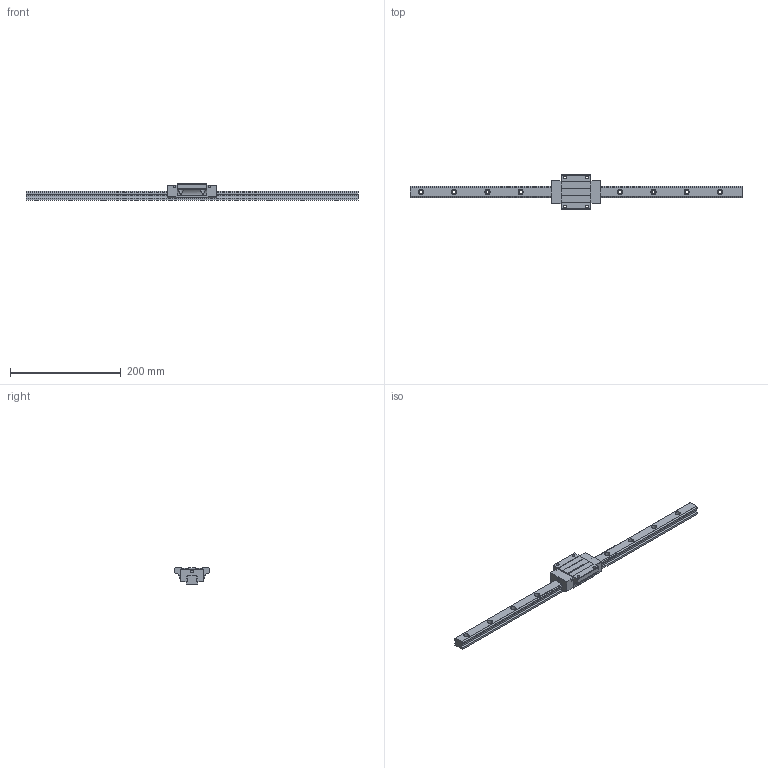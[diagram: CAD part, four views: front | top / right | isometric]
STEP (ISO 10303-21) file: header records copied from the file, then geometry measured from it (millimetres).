
FILE_DESCRIPTION (( 'STEP AP203' ), '1' );
FILE_NAME ('TRH20FN-SZ.STEP', '2024-06-26T06:21:04', ( '' ), ( '' ), 'SwSTEP 2.0', 'SolidWorks 2022', '' );
FILE_SCHEMA (( 'CONFIG_CONTROL_DESIGN' ));
Length unit declared in the file: millimetre
Products named in the file (1): TRH20FN-SZ
Bounding box: 600 x 63 x 30 mm (x, y, z)
Volume: 249710.2 mm3; surface area: 68694.3 mm2
Topology: 2 solids, 2 shells, 222 faces, 598 edges, 392 vertices
Faces by surface type: cylinder 126, plane 92, sphere 4
Entity records: 7687 total; most frequent: CARTESIAN_POINT 1831, DIRECTION 1242, ORIENTED_EDGE 1188, EDGE_CURVE 594, AXIS2_PLACEMENT_3D 451, VERTEX_POINT 392, VECTOR 340, LINE 340
